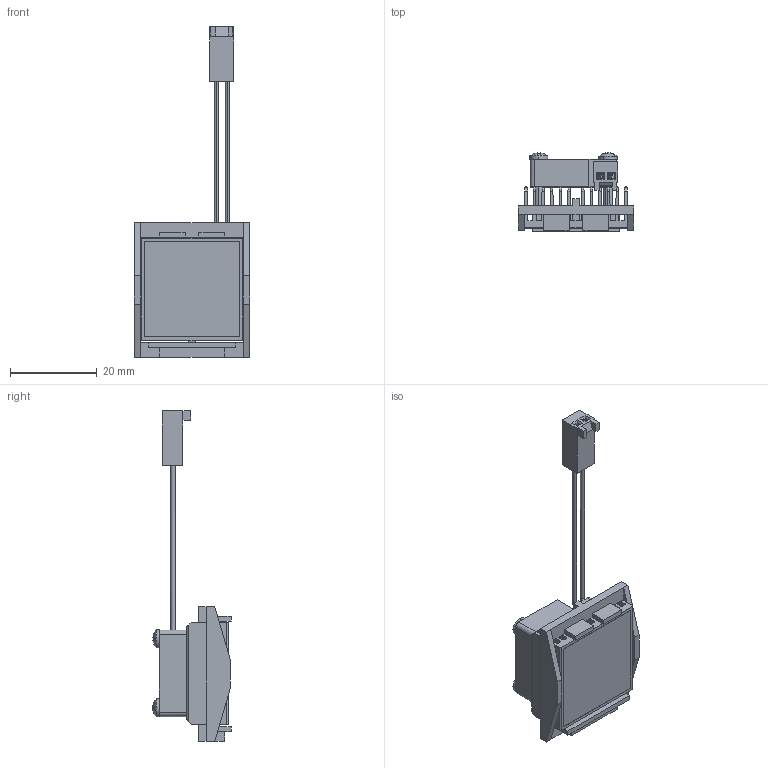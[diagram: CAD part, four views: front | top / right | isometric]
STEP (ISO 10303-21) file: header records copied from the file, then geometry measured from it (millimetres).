
FILE_DESCRIPTION (( 'STEP AP214' ), '1' );
FILE_NAME ('FI24-1.7+O.STEP', '2023-03-17T09:02:52', ( '' ), ( '' ), 'SwSTEP 2.0', 'SolidWorks 2020', '' );
FILE_SCHEMA (( 'AUTOMOTIVE_DESIGN' ));
Length unit declared in the file: millimetre
Products named in the file (1): FI24-1.7+O
Bounding box: 26.7 x 18.08 x 76.4 mm (x, y, z)
Volume: 5261.7 mm3; surface area: 11748.2 mm2
Topology: 10 solids, 10 shells, 408 faces, 1122 edges, 724 vertices
Faces by surface type: plane 246, cylinder 108, bspline 48, sphere 6
Entity records: 19671 total; most frequent: CARTESIAN_POINT 5136, ORIENTED_EDGE 2206, DIRECTION 1848, EDGE_CURVE 1103, LINE 736, VECTOR 736, VERTEX_POINT 724, AXIS2_PLACEMENT_3D 556
